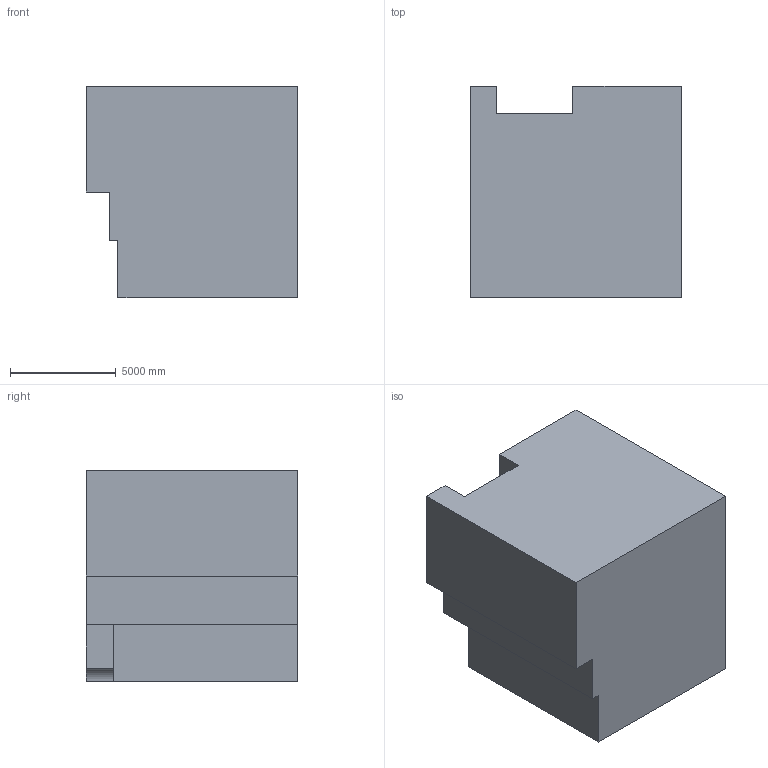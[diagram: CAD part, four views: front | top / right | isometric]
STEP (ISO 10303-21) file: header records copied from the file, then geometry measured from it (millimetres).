
FILE_DESCRIPTION (( 'STEP AP203' ), '1' );
FILE_NAME ('1350.STEP', '2022-08-18T13:59:19', ( 'user' ), ( '' ), 'SwSTEP 2.0', 'SolidWorks 2021', '' );
FILE_SCHEMA (( 'CONFIG_CONTROL_DESIGN' ));
Length unit declared in the file: centimetre
Products named in the file (1): 1350
Bounding box: 10000 x 10000 x 10000 mm (x, y, z)
Volume: 879718960244.6 mm3; surface area: 598645567.1 mm2
Topology: 1 solids, 1 shells, 18 faces, 48 edges, 32 vertices
Faces by surface type: plane 16, cylinder 2
Entity records: 633 total; most frequent: CARTESIAN_POINT 99, ORIENTED_EDGE 96, DIRECTION 90, EDGE_CURVE 48, VECTOR 44, LINE 44, VERTEX_POINT 32, AXIS2_PLACEMENT_3D 23
